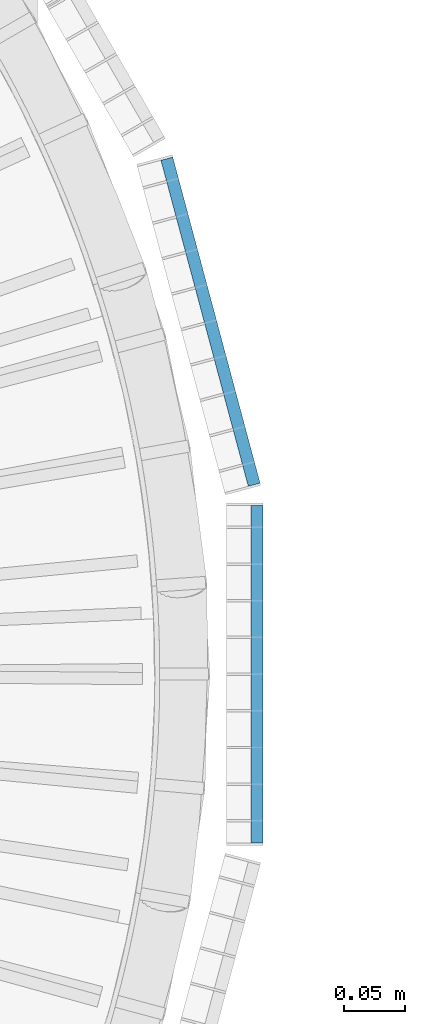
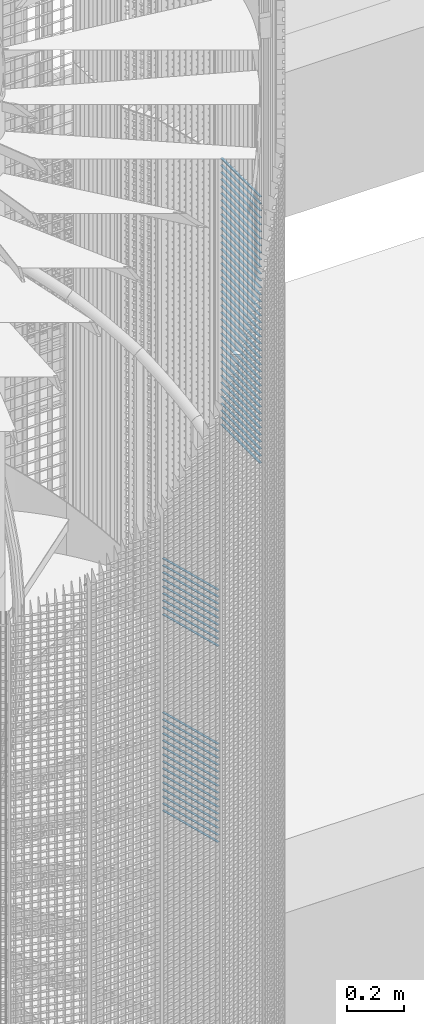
# One storey, part 283 of 1183: 63 beams, 2 elements without a shape of their own.
"""IFC2X3 building model written with IfcOpenShell, lengths in millimetres."""

from ifc_helpers import new_model, si_unit, frame, origin_with_axes, origin_2d_with_axis, place, context, subcontext, project, spatial, rectangle, extrude, material, type_object, element, aggregate, save


model = new_model("IFC2X3")

# Units and contexts
model_context = context("Model", 3, precision=1e-05, world=origin_with_axes())
body_context = subcontext(model_context, "Body", "Model", "MODEL_VIEW")
ifc_project = project(units=[si_unit("LENGTHUNIT", "METRE", prefix="MILLI"), si_unit("AREAUNIT", "SQUARE_METRE"), si_unit("VOLUMEUNIT", "CUBIC_METRE"), si_unit("MASSUNIT", "GRAM", prefix="KILO"), si_unit("TIMEUNIT", "SECOND"), si_unit("PLANEANGLEUNIT", "RADIAN"), si_unit("SOLIDANGLEUNIT", "STERADIAN"), si_unit("THERMODYNAMICTEMPERATUREUNIT", "DEGREE_CELSIUS"), si_unit("LUMINOUSINTENSITYUNIT", "LUMEN")], contexts=[model_context])

# Site, building, storey
site_placement = place(None, origin_with_axes())
site = spatial("IfcSite", under=ifc_project, at=site_placement, Name="Undefined", CompositionType="ELEMENT")
building_placement = place(site_placement, origin_with_axes())
building = spatial("IfcBuilding", under=site, at=building_placement, Name="Undefined", CompositionType="ELEMENT")
storey_placement = place(building_placement, origin_with_axes())
storey = spatial("IfcBuildingStorey", under=building, at=storey_placement, Name="Undefined", CompositionType="ELEMENT", Elevation=0.0)

# Assembly, beams
assembly_1_placement = place(storey_placement, origin_with_axes())
assembly_1 = element("IfcElementAssembly", 1, at=assembly_1_placement, inside=storey, Name="BORDURE", AssemblyPlace="NOTDEFINED", PredefinedType="NOTDEFINED")
ifc_material = material(Name="STEEL/S235JR")
beam_type = type_object("IfcBeamType", Name="PL2*10", PredefinedType="NOTDEFINED")
beam_1_placement = place(assembly_1_placement, frame((1111.25508286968, 154.895926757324, 12870.0), z_axis=(0.965925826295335, 0.258819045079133, 0.0), x_axis=(-0.258819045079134, 0.965925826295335, 0.0)))
beam_1 = element("IfcBeam", 2, at=beam_1_placement, type_object=beam_type, material=ifc_material, Name="ENTRETOISE", context=body_context, shape_type="SweptSolid", body=[
    extrude(rectangle(XDim=2.0, YDim=10.0, at=origin_2d_with_axis()), frame((275.999999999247, 9.09494701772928e-13, 1.53210777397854e-14), z_axis=(-1.0, 0.0, 0.0), x_axis=(0.0, -1.0, 0.0)), (0.0, 0.0, 1.0), 276.0),
])
beam_2_placement = place(assembly_1_placement, frame((1111.25508286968, 154.895926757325, 12450.0), z_axis=(0.965925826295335, 0.258819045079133, 0.0), x_axis=(-0.258819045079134, 0.965925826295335, 0.0)))
beam_2 = element("IfcBeam", 3, at=beam_2_placement, type_object=beam_type, material=ifc_material, Name="ENTRETOISE", context=body_context, shape_type="SweptSolid", body=[
    extrude(rectangle(XDim=2.0, YDim=10.0, at=origin_2d_with_axis()), frame((275.999999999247, 9.09494701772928e-13, 1.53210777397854e-14), z_axis=(-1.0, 0.0, 0.0), x_axis=(0.0, -1.0, 0.0)), (0.0, 0.0, 1.0), 276.0),
])
beam_3_placement = place(assembly_1_placement, frame((1111.25508286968, 154.895926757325, 12420.0), z_axis=(0.965925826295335, 0.258819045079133, 0.0), x_axis=(-0.258819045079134, 0.965925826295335, 0.0)))
beam_3 = element("IfcBeam", 4, at=beam_3_placement, type_object=beam_type, material=ifc_material, Name="ENTRETOISE", context=body_context, shape_type="SweptSolid", body=[
    extrude(rectangle(XDim=2.0, YDim=10.0, at=origin_2d_with_axis()), frame((275.999999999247, 9.09494701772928e-13, 1.53210777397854e-14), z_axis=(-1.0, 0.0, 0.0), x_axis=(0.0, -1.0, 0.0)), (0.0, 0.0, 1.0), 276.0),
])
beam_4_placement = place(assembly_1_placement, frame((1111.25508286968, 154.895926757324, 12900.0), z_axis=(0.965925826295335, 0.258819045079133, 0.0), x_axis=(-0.258819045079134, 0.965925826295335, 0.0)))
beam_4 = element("IfcBeam", 5, at=beam_4_placement, type_object=beam_type, material=ifc_material, Name="ENTRETOISE", context=body_context, shape_type="SweptSolid", body=[
    extrude(rectangle(XDim=2.0, YDim=10.0, at=origin_2d_with_axis()), frame((275.999999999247, 9.09494701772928e-13, 1.53210777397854e-14), z_axis=(-1.0, 0.0, 0.0), x_axis=(0.0, -1.0, 0.0)), (0.0, 0.0, 1.0), 276.0),
])
beam_5_placement = place(assembly_1_placement, frame((1111.25508286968, 154.895926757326, 12390.0), z_axis=(0.965925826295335, 0.258819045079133, 0.0), x_axis=(-0.258819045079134, 0.965925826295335, 0.0)))
beam_5 = element("IfcBeam", 6, at=beam_5_placement, type_object=beam_type, material=ifc_material, Name="ENTRETOISE", context=body_context, shape_type="SweptSolid", body=[
    extrude(rectangle(XDim=2.0, YDim=10.0, at=origin_2d_with_axis()), frame((275.999999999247, 9.09494701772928e-13, 1.53210777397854e-14), z_axis=(-1.0, 0.0, 0.0), x_axis=(0.0, -1.0, 0.0)), (0.0, 0.0, 1.0), 276.0),
])
beam_6_placement = place(assembly_1_placement, frame((1111.25508286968, 154.895926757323, 12930.0), z_axis=(0.965925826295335, 0.258819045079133, 0.0), x_axis=(-0.258819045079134, 0.965925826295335, 0.0)))
beam_6 = element("IfcBeam", 7, at=beam_6_placement, type_object=beam_type, material=ifc_material, Name="ENTRETOISE", context=body_context, shape_type="SweptSolid", body=[
    extrude(rectangle(XDim=2.0, YDim=10.0, at=origin_2d_with_axis()), frame((275.999999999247, 9.09494701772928e-13, 1.53210777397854e-14), z_axis=(-1.0, 0.0, 0.0), x_axis=(0.0, -1.0, 0.0)), (0.0, 0.0, 1.0), 276.0),
])
beam_7_placement = place(assembly_1_placement, frame((1111.25508286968, 154.895926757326, 12360.0), z_axis=(0.965925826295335, 0.258819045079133, 0.0), x_axis=(-0.258819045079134, 0.965925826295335, 0.0)))
beam_7 = element("IfcBeam", 8, at=beam_7_placement, type_object=beam_type, material=ifc_material, Name="ENTRETOISE", context=body_context, shape_type="SweptSolid", body=[
    extrude(rectangle(XDim=2.0, YDim=10.0, at=origin_2d_with_axis()), frame((275.999999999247, 9.09494701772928e-13, 1.53210777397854e-14), z_axis=(-1.0, 0.0, 0.0), x_axis=(0.0, -1.0, 0.0)), (0.0, 0.0, 1.0), 276.0),
])
beam_8_placement = place(assembly_1_placement, frame((1111.25508286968, 154.895926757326, 12330.0), z_axis=(0.965925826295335, 0.258819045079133, 0.0), x_axis=(-0.258819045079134, 0.965925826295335, 0.0)))
beam_8 = element("IfcBeam", 9, at=beam_8_placement, type_object=beam_type, material=ifc_material, Name="ENTRETOISE", context=body_context, shape_type="SweptSolid", body=[
    extrude(rectangle(XDim=2.0, YDim=10.0, at=origin_2d_with_axis()), frame((275.999999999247, 9.09494701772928e-13, 1.53210777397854e-14), z_axis=(-1.0, 0.0, 0.0), x_axis=(0.0, -1.0, 0.0)), (0.0, 0.0, 1.0), 276.0),
])
beam_9_placement = place(assembly_1_placement, frame((1111.25508286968, 154.895926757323, 12960.0), z_axis=(0.965925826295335, 0.258819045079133, 0.0), x_axis=(-0.258819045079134, 0.965925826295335, 0.0)))
beam_9 = element("IfcBeam", 10, at=beam_9_placement, type_object=beam_type, material=ifc_material, Name="ENTRETOISE", context=body_context, shape_type="SweptSolid", body=[
    extrude(rectangle(XDim=2.0, YDim=10.0, at=origin_2d_with_axis()), frame((275.999999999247, 9.09494701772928e-13, 1.53210777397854e-14), z_axis=(-1.0, 0.0, 0.0), x_axis=(0.0, -1.0, 0.0)), (0.0, 0.0, 1.0), 276.0),
])
beam_10_placement = place(assembly_1_placement, frame((1111.25508286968, 154.895926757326, 12300.0), z_axis=(0.965925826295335, 0.258819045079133, 0.0), x_axis=(-0.258819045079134, 0.965925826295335, 0.0)))
beam_10 = element("IfcBeam", 11, at=beam_10_placement, type_object=beam_type, material=ifc_material, Name="ENTRETOISE", context=body_context, shape_type="SweptSolid", body=[
    extrude(rectangle(XDim=2.0, YDim=10.0, at=origin_2d_with_axis()), frame((275.999999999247, 9.09494701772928e-13, 1.53210777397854e-14), z_axis=(-1.0, 0.0, 0.0), x_axis=(0.0, -1.0, 0.0)), (0.0, 0.0, 1.0), 276.0),
])
beam_11_placement = place(assembly_1_placement, frame((1111.25508286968, 154.895926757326, 12270.0), z_axis=(0.965925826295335, 0.258819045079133, 0.0), x_axis=(-0.258819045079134, 0.965925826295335, 0.0)))
beam_11 = element("IfcBeam", 12, at=beam_11_placement, type_object=beam_type, material=ifc_material, Name="ENTRETOISE", context=body_context, shape_type="SweptSolid", body=[
    extrude(rectangle(XDim=2.0, YDim=10.0, at=origin_2d_with_axis()), frame((275.999999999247, 9.09494701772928e-13, 1.53210777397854e-14), z_axis=(-1.0, 0.0, 0.0), x_axis=(0.0, -1.0, 0.0)), (0.0, 0.0, 1.0), 276.0),
])
beam_12_placement = place(assembly_1_placement, frame((1111.25508286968, 154.895926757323, 12990.0), z_axis=(0.965925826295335, 0.258819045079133, 0.0), x_axis=(-0.258819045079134, 0.965925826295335, 0.0)))
beam_12 = element("IfcBeam", 13, at=beam_12_placement, type_object=beam_type, material=ifc_material, Name="ENTRETOISE", context=body_context, shape_type="SweptSolid", body=[
    extrude(rectangle(XDim=2.0, YDim=10.0, at=origin_2d_with_axis()), frame((275.999999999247, 9.09494701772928e-13, 1.53210777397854e-14), z_axis=(-1.0, 0.0, 0.0), x_axis=(0.0, -1.0, 0.0)), (0.0, 0.0, 1.0), 276.0),
])
beam_13_placement = place(assembly_1_placement, frame((1111.25508286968, 154.895926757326, 12240.0), z_axis=(0.965925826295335, 0.258819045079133, 0.0), x_axis=(-0.258819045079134, 0.965925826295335, 0.0)))
beam_13 = element("IfcBeam", 14, at=beam_13_placement, type_object=beam_type, material=ifc_material, Name="ENTRETOISE", context=body_context, shape_type="SweptSolid", body=[
    extrude(rectangle(XDim=2.0, YDim=10.0, at=origin_2d_with_axis()), frame((275.999999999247, 9.09494701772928e-13, 1.53210777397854e-14), z_axis=(-1.0, 0.0, 0.0), x_axis=(0.0, -1.0, 0.0)), (0.0, 0.0, 1.0), 276.0),
])
beam_14_placement = place(assembly_1_placement, frame((1111.25508286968, 154.895926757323, 13020.0), z_axis=(0.965925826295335, 0.258819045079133, 0.0), x_axis=(-0.258819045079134, 0.965925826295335, 0.0)))
beam_14 = element("IfcBeam", 15, at=beam_14_placement, type_object=beam_type, material=ifc_material, Name="ENTRETOISE", context=body_context, shape_type="SweptSolid", body=[
    extrude(rectangle(XDim=2.0, YDim=10.0, at=origin_2d_with_axis()), frame((275.999999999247, 9.09494701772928e-13, 1.53210777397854e-14), z_axis=(-1.0, 0.0, 0.0), x_axis=(0.0, -1.0, 0.0)), (0.0, 0.0, 1.0), 276.0),
])
beam_15_placement = place(assembly_1_placement, frame((1111.25508286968, 154.895926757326, 12210.0), z_axis=(0.965925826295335, 0.258819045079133, 0.0), x_axis=(-0.258819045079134, 0.965925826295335, 0.0)))
beam_15 = element("IfcBeam", 16, at=beam_15_placement, type_object=beam_type, material=ifc_material, Name="ENTRETOISE", context=body_context, shape_type="SweptSolid", body=[
    extrude(rectangle(XDim=2.0, YDim=10.0, at=origin_2d_with_axis()), frame((275.999999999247, 9.09494701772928e-13, 1.53210777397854e-14), z_axis=(-1.0, 0.0, 0.0), x_axis=(0.0, -1.0, 0.0)), (0.0, 0.0, 1.0), 276.0),
])
beam_16_placement = place(assembly_1_placement, frame((1111.25508286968, 154.895926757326, 12180.0), z_axis=(0.965925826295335, 0.258819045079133, 0.0), x_axis=(-0.258819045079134, 0.965925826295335, 0.0)))
beam_16 = element("IfcBeam", 17, at=beam_16_placement, type_object=beam_type, material=ifc_material, Name="ENTRETOISE", context=body_context, shape_type="SweptSolid", body=[
    extrude(rectangle(XDim=2.0, YDim=10.0, at=origin_2d_with_axis()), frame((275.999999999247, 9.09494701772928e-13, 1.53210777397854e-14), z_axis=(-1.0, 0.0, 0.0), x_axis=(0.0, -1.0, 0.0)), (0.0, 0.0, 1.0), 276.0),
])
beam_17_placement = place(assembly_1_placement, frame((1111.25508286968, 154.895926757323, 13050.0), z_axis=(0.965925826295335, 0.258819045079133, 0.0), x_axis=(-0.258819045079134, 0.965925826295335, 0.0)))
beam_17 = element("IfcBeam", 18, at=beam_17_placement, type_object=beam_type, material=ifc_material, Name="ENTRETOISE", context=body_context, shape_type="SweptSolid", body=[
    extrude(rectangle(XDim=2.0, YDim=10.0, at=origin_2d_with_axis()), frame((275.999999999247, 9.09494701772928e-13, 1.53210777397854e-14), z_axis=(-1.0, 0.0, 0.0), x_axis=(0.0, -1.0, 0.0)), (0.0, 0.0, 1.0), 276.0),
])
beam_18_placement = place(assembly_1_placement, frame((1111.25508286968, 154.895926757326, 12150.0), z_axis=(0.965925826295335, 0.258819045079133, 0.0), x_axis=(-0.258819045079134, 0.965925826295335, 0.0)))
beam_18 = element("IfcBeam", 19, at=beam_18_placement, type_object=beam_type, material=ifc_material, Name="ENTRETOISE", context=body_context, shape_type="SweptSolid", body=[
    extrude(rectangle(XDim=2.0, YDim=10.0, at=origin_2d_with_axis()), frame((275.999999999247, 9.09494701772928e-13, 1.53210777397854e-14), z_axis=(-1.0, 0.0, 0.0), x_axis=(0.0, -1.0, 0.0)), (0.0, 0.0, 1.0), 276.0),
])
beam_19_placement = place(assembly_1_placement, frame((1111.25508286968, 154.895926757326, 12120.0), z_axis=(0.965925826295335, 0.258819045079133, 0.0), x_axis=(-0.258819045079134, 0.965925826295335, 0.0)))
beam_19 = element("IfcBeam", 20, at=beam_19_placement, type_object=beam_type, material=ifc_material, Name="ENTRETOISE", context=body_context, shape_type="SweptSolid", body=[
    extrude(rectangle(XDim=2.0, YDim=10.0, at=origin_2d_with_axis()), frame((275.999999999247, 9.09494701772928e-13, 1.53210777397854e-14), z_axis=(-1.0, 0.0, 0.0), x_axis=(0.0, -1.0, 0.0)), (0.0, 0.0, 1.0), 276.0),
])
beam_20_placement = place(assembly_1_placement, frame((1111.25508286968, 154.895926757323, 13080.0), z_axis=(0.965925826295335, 0.258819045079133, 0.0), x_axis=(-0.258819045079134, 0.965925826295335, 0.0)))
beam_20 = element("IfcBeam", 21, at=beam_20_placement, type_object=beam_type, material=ifc_material, Name="ENTRETOISE", context=body_context, shape_type="SweptSolid", body=[
    extrude(rectangle(XDim=2.0, YDim=10.0, at=origin_2d_with_axis()), frame((275.999999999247, 9.09494701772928e-13, 1.53210777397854e-14), z_axis=(-1.0, 0.0, 0.0), x_axis=(0.0, -1.0, 0.0)), (0.0, 0.0, 1.0), 276.0),
])
beam_21_placement = place(assembly_1_placement, frame((1111.25508286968, 154.895926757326, 12090.0), z_axis=(0.965925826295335, 0.258819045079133, 0.0), x_axis=(-0.258819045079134, 0.965925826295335, 0.0)))
beam_21 = element("IfcBeam", 22, at=beam_21_placement, type_object=beam_type, material=ifc_material, Name="ENTRETOISE", context=body_context, shape_type="SweptSolid", body=[
    extrude(rectangle(XDim=2.0, YDim=10.0, at=origin_2d_with_axis()), frame((275.999999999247, 9.09494701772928e-13, 1.53210777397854e-14), z_axis=(-1.0, 0.0, 0.0), x_axis=(0.0, -1.0, 0.0)), (0.0, 0.0, 1.0), 276.0),
])
beam_22_placement = place(assembly_1_placement, frame((1111.25508286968, 154.895926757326, 12060.0), z_axis=(0.965925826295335, 0.258819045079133, 0.0), x_axis=(-0.258819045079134, 0.965925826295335, 0.0)))
beam_22 = element("IfcBeam", 23, at=beam_22_placement, type_object=beam_type, material=ifc_material, Name="ENTRETOISE", context=body_context, shape_type="SweptSolid", body=[
    extrude(rectangle(XDim=2.0, YDim=10.0, at=origin_2d_with_axis()), frame((275.999999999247, 9.09494701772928e-13, 1.53210777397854e-14), z_axis=(-1.0, 0.0, 0.0), x_axis=(0.0, -1.0, 0.0)), (0.0, 0.0, 1.0), 276.0),
])
beam_23_placement = place(assembly_1_placement, frame((1111.25508286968, 154.895926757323, 13110.0), z_axis=(0.965925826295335, 0.258819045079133, 0.0), x_axis=(-0.258819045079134, 0.965925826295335, 0.0)))
beam_23 = element("IfcBeam", 24, at=beam_23_placement, type_object=beam_type, material=ifc_material, Name="ENTRETOISE", context=body_context, shape_type="SweptSolid", body=[
    extrude(rectangle(XDim=2.0, YDim=10.0, at=origin_2d_with_axis()), frame((275.999999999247, 9.09494701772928e-13, 1.53210777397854e-14), z_axis=(-1.0, 0.0, 0.0), x_axis=(0.0, -1.0, 0.0)), (0.0, 0.0, 1.0), 276.0),
])
beam_24_placement = place(assembly_1_placement, frame((1111.25508286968, 154.895926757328, 12030.0), z_axis=(0.965925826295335, 0.258819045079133, 0.0), x_axis=(-0.258819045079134, 0.965925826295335, 0.0)))
beam_24 = element("IfcBeam", 25, at=beam_24_placement, type_object=beam_type, material=ifc_material, Name="ENTRETOISE", context=body_context, shape_type="SweptSolid", body=[
    extrude(rectangle(XDim=2.0, YDim=10.0, at=origin_2d_with_axis()), frame((275.999999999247, 9.09494701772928e-13, 1.53210777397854e-14), z_axis=(-1.0, 0.0, 0.0), x_axis=(0.0, -1.0, 0.0)), (0.0, 0.0, 1.0), 276.0),
])
aggregate(assembly_1, [beam_1, beam_2, beam_3, beam_4, beam_5, beam_6, beam_7, beam_8, beam_9, beam_10, beam_11, beam_12, beam_13, beam_14, beam_15, beam_16, beam_17, beam_18, beam_19, beam_20, beam_21, beam_22, beam_23, beam_24])

assembly_2_placement = place(storey_placement, origin_with_axes())
assembly_2 = element("IfcElementAssembly", 26, at=assembly_2_placement, inside=storey, Name="BORDURE", AssemblyPlace="NOTDEFINED", PredefinedType="NOTDEFINED")
beam_25_placement = place(assembly_2_placement, frame((1113.47999999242, -137.996003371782, 14970.0), z_axis=(1.0, 0.0, 0.0), x_axis=(0.0, 1.0, 0.0)))
beam_25 = element("IfcBeam", 27, at=beam_25_placement, type_object=beam_type, material=ifc_material, Name="ENTRETOISE", context=body_context, shape_type="SweptSolid", body=[
    extrude(rectangle(XDim=2.0, YDim=10.0, at=origin_2d_with_axis()), frame((275.999999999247, 9.09494701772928e-13, 1.53210777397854e-14), z_axis=(-1.0, 0.0, 0.0), x_axis=(0.0, -1.0, 0.0)), (0.0, 0.0, 1.0), 276.0),
])
beam_26_placement = place(assembly_2_placement, frame((1113.47999999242, -137.996003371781, 14940.0), z_axis=(1.0, 0.0, 0.0), x_axis=(0.0, 1.0, 0.0)))
beam_26 = element("IfcBeam", 28, at=beam_26_placement, type_object=beam_type, material=ifc_material, Name="ENTRETOISE", context=body_context, shape_type="SweptSolid", body=[
    extrude(rectangle(XDim=2.0, YDim=10.0, at=origin_2d_with_axis()), frame((275.999999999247, 9.09494701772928e-13, 1.53210777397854e-14), z_axis=(-1.0, 0.0, 0.0), x_axis=(0.0, -1.0, 0.0)), (0.0, 0.0, 1.0), 276.0),
])
beam_27_placement = place(assembly_2_placement, frame((1113.47999999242, -137.996003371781, 14910.0), z_axis=(1.0, 0.0, 0.0), x_axis=(0.0, 1.0, 0.0)))
beam_27 = element("IfcBeam", 29, at=beam_27_placement, type_object=beam_type, material=ifc_material, Name="ENTRETOISE", context=body_context, shape_type="SweptSolid", body=[
    extrude(rectangle(XDim=2.0, YDim=10.0, at=origin_2d_with_axis()), frame((275.999999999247, 9.09494701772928e-13, 1.53210777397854e-14), z_axis=(-1.0, 0.0, 0.0), x_axis=(0.0, -1.0, 0.0)), (0.0, 0.0, 1.0), 276.0),
])
beam_28_placement = place(assembly_2_placement, frame((1113.47999999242, -137.996003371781, 14880.0), z_axis=(1.0, 0.0, 0.0), x_axis=(0.0, 1.0, 0.0)))
beam_28 = element("IfcBeam", 30, at=beam_28_placement, type_object=beam_type, material=ifc_material, Name="ENTRETOISE", context=body_context, shape_type="SweptSolid", body=[
    extrude(rectangle(XDim=2.0, YDim=10.0, at=origin_2d_with_axis()), frame((275.999999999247, 9.09494701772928e-13, 1.53210777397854e-14), z_axis=(-1.0, 0.0, 0.0), x_axis=(0.0, -1.0, 0.0)), (0.0, 0.0, 1.0), 276.0),
])
beam_29_placement = place(assembly_2_placement, frame((1113.47999999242, -137.996003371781, 14850.0), z_axis=(1.0, 0.0, 0.0), x_axis=(0.0, 1.0, 0.0)))
beam_29 = element("IfcBeam", 31, at=beam_29_placement, type_object=beam_type, material=ifc_material, Name="ENTRETOISE", context=body_context, shape_type="SweptSolid", body=[
    extrude(rectangle(XDim=2.0, YDim=10.0, at=origin_2d_with_axis()), frame((275.999999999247, 9.09494701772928e-13, 1.53210777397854e-14), z_axis=(-1.0, 0.0, 0.0), x_axis=(0.0, -1.0, 0.0)), (0.0, 0.0, 1.0), 276.0),
])
beam_30_placement = place(assembly_2_placement, frame((1113.47999999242, -137.996003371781, 14820.0), z_axis=(1.0, 0.0, 0.0), x_axis=(0.0, 1.0, 0.0)))
beam_30 = element("IfcBeam", 32, at=beam_30_placement, type_object=beam_type, material=ifc_material, Name="ENTRETOISE", context=body_context, shape_type="SweptSolid", body=[
    extrude(rectangle(XDim=2.0, YDim=10.0, at=origin_2d_with_axis()), frame((275.999999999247, 9.09494701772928e-13, 1.53210777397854e-14), z_axis=(-1.0, 0.0, 0.0), x_axis=(0.0, -1.0, 0.0)), (0.0, 0.0, 1.0), 276.0),
])
beam_31_placement = place(assembly_2_placement, frame((1113.47999999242, -137.996003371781, 14790.0), z_axis=(1.0, 0.0, 0.0), x_axis=(0.0, 1.0, 0.0)))
beam_31 = element("IfcBeam", 33, at=beam_31_placement, type_object=beam_type, material=ifc_material, Name="ENTRETOISE", context=body_context, shape_type="SweptSolid", body=[
    extrude(rectangle(XDim=2.0, YDim=10.0, at=origin_2d_with_axis()), frame((275.999999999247, 9.09494701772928e-13, 1.53210777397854e-14), z_axis=(-1.0, 0.0, 0.0), x_axis=(0.0, -1.0, 0.0)), (0.0, 0.0, 1.0), 276.0),
])
beam_32_placement = place(assembly_2_placement, frame((1113.47999999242, -137.996003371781, 14760.0), z_axis=(1.0, 0.0, 0.0), x_axis=(0.0, 1.0, 0.0)))
beam_32 = element("IfcBeam", 34, at=beam_32_placement, type_object=beam_type, material=ifc_material, Name="ENTRETOISE", context=body_context, shape_type="SweptSolid", body=[
    extrude(rectangle(XDim=2.0, YDim=10.0, at=origin_2d_with_axis()), frame((275.999999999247, 9.09494701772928e-13, 1.53210777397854e-14), z_axis=(-1.0, 0.0, 0.0), x_axis=(0.0, -1.0, 0.0)), (0.0, 0.0, 1.0), 276.0),
])
beam_33_placement = place(assembly_2_placement, frame((1113.47999999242, -137.996003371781, 14730.0), z_axis=(1.0, 0.0, 0.0), x_axis=(0.0, 1.0, 0.0)))
beam_33 = element("IfcBeam", 35, at=beam_33_placement, type_object=beam_type, material=ifc_material, Name="ENTRETOISE", context=body_context, shape_type="SweptSolid", body=[
    extrude(rectangle(XDim=2.0, YDim=10.0, at=origin_2d_with_axis()), frame((275.999999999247, 9.09494701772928e-13, 1.53210777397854e-14), z_axis=(-1.0, 0.0, 0.0), x_axis=(0.0, -1.0, 0.0)), (0.0, 0.0, 1.0), 276.0),
])
beam_34_placement = place(assembly_2_placement, frame((1113.47999999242, -137.996003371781, 14700.0), z_axis=(1.0, 0.0, 0.0), x_axis=(0.0, 1.0, 0.0)))
beam_34 = element("IfcBeam", 36, at=beam_34_placement, type_object=beam_type, material=ifc_material, Name="ENTRETOISE", context=body_context, shape_type="SweptSolid", body=[
    extrude(rectangle(XDim=2.0, YDim=10.0, at=origin_2d_with_axis()), frame((275.999999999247, 9.09494701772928e-13, 1.53210777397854e-14), z_axis=(-1.0, 0.0, 0.0), x_axis=(0.0, -1.0, 0.0)), (0.0, 0.0, 1.0), 276.0),
])
beam_35_placement = place(assembly_2_placement, frame((1113.47999999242, -137.996003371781, 14670.0), z_axis=(1.0, 0.0, 0.0), x_axis=(0.0, 1.0, 0.0)))
beam_35 = element("IfcBeam", 37, at=beam_35_placement, type_object=beam_type, material=ifc_material, Name="ENTRETOISE", context=body_context, shape_type="SweptSolid", body=[
    extrude(rectangle(XDim=2.0, YDim=10.0, at=origin_2d_with_axis()), frame((275.999999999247, 9.09494701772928e-13, 1.53210777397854e-14), z_axis=(-1.0, 0.0, 0.0), x_axis=(0.0, -1.0, 0.0)), (0.0, 0.0, 1.0), 276.0),
])
beam_36_placement = place(assembly_2_placement, frame((1113.47999999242, -137.99600337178, 14640.0), z_axis=(1.0, 0.0, 0.0), x_axis=(0.0, 1.0, 0.0)))
beam_36 = element("IfcBeam", 38, at=beam_36_placement, type_object=beam_type, material=ifc_material, Name="ENTRETOISE", context=body_context, shape_type="SweptSolid", body=[
    extrude(rectangle(XDim=2.0, YDim=10.0, at=origin_2d_with_axis()), frame((275.999999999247, 9.09494701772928e-13, 1.53210777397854e-14), z_axis=(-1.0, 0.0, 0.0), x_axis=(0.0, -1.0, 0.0)), (0.0, 0.0, 1.0), 276.0),
])
beam_37_placement = place(assembly_2_placement, frame((1113.47999999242, -137.99600337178, 14610.0), z_axis=(1.0, 0.0, 0.0), x_axis=(0.0, 1.0, 0.0)))
beam_37 = element("IfcBeam", 39, at=beam_37_placement, type_object=beam_type, material=ifc_material, Name="ENTRETOISE", context=body_context, shape_type="SweptSolid", body=[
    extrude(rectangle(XDim=2.0, YDim=10.0, at=origin_2d_with_axis()), frame((275.999999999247, 9.09494701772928e-13, 1.53210777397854e-14), z_axis=(-1.0, 0.0, 0.0), x_axis=(0.0, -1.0, 0.0)), (0.0, 0.0, 1.0), 276.0),
])
beam_38_placement = place(assembly_2_placement, frame((1113.47999999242, -137.99600337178, 14580.0), z_axis=(1.0, 0.0, 0.0), x_axis=(0.0, 1.0, 0.0)))
beam_38 = element("IfcBeam", 40, at=beam_38_placement, type_object=beam_type, material=ifc_material, Name="ENTRETOISE", context=body_context, shape_type="SweptSolid", body=[
    extrude(rectangle(XDim=2.0, YDim=10.0, at=origin_2d_with_axis()), frame((275.999999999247, 9.09494701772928e-13, 1.53210777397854e-14), z_axis=(-1.0, 0.0, 0.0), x_axis=(0.0, -1.0, 0.0)), (0.0, 0.0, 1.0), 276.0),
])
beam_39_placement = place(assembly_2_placement, frame((1113.47999999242, -137.99600337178, 14550.0), z_axis=(1.0, 0.0, 0.0), x_axis=(0.0, 1.0, 0.0)))
beam_39 = element("IfcBeam", 41, at=beam_39_placement, type_object=beam_type, material=ifc_material, Name="ENTRETOISE", context=body_context, shape_type="SweptSolid", body=[
    extrude(rectangle(XDim=2.0, YDim=10.0, at=origin_2d_with_axis()), frame((275.999999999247, 9.09494701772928e-13, 1.53210777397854e-14), z_axis=(-1.0, 0.0, 0.0), x_axis=(0.0, -1.0, 0.0)), (0.0, 0.0, 1.0), 276.0),
])
beam_40_placement = place(assembly_2_placement, frame((1113.47999999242, -137.99600337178, 14520.0), z_axis=(1.0, 0.0, 0.0), x_axis=(0.0, 1.0, 0.0)))
beam_40 = element("IfcBeam", 42, at=beam_40_placement, type_object=beam_type, material=ifc_material, Name="ENTRETOISE", context=body_context, shape_type="SweptSolid", body=[
    extrude(rectangle(XDim=2.0, YDim=10.0, at=origin_2d_with_axis()), frame((275.999999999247, 9.09494701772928e-13, 1.53210777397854e-14), z_axis=(-1.0, 0.0, 0.0), x_axis=(0.0, -1.0, 0.0)), (0.0, 0.0, 1.0), 276.0),
])
beam_41_placement = place(assembly_2_placement, frame((1113.47999999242, -137.99600337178, 14490.0), z_axis=(1.0, 0.0, 0.0), x_axis=(0.0, 1.0, 0.0)))
beam_41 = element("IfcBeam", 43, at=beam_41_placement, type_object=beam_type, material=ifc_material, Name="ENTRETOISE", context=body_context, shape_type="SweptSolid", body=[
    extrude(rectangle(XDim=2.0, YDim=10.0, at=origin_2d_with_axis()), frame((275.999999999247, 9.09494701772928e-13, 1.53210777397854e-14), z_axis=(-1.0, 0.0, 0.0), x_axis=(0.0, -1.0, 0.0)), (0.0, 0.0, 1.0), 276.0),
])
beam_42_placement = place(assembly_2_placement, frame((1113.47999999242, -137.99600337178, 14460.0), z_axis=(1.0, 0.0, 0.0), x_axis=(0.0, 1.0, 0.0)))
beam_42 = element("IfcBeam", 44, at=beam_42_placement, type_object=beam_type, material=ifc_material, Name="ENTRETOISE", context=body_context, shape_type="SweptSolid", body=[
    extrude(rectangle(XDim=2.0, YDim=10.0, at=origin_2d_with_axis()), frame((275.999999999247, 9.09494701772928e-13, 1.53210777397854e-14), z_axis=(-1.0, 0.0, 0.0), x_axis=(0.0, -1.0, 0.0)), (0.0, 0.0, 1.0), 276.0),
])
beam_43_placement = place(assembly_2_placement, frame((1113.47999999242, -137.99600337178, 14430.0), z_axis=(1.0, 0.0, 0.0), x_axis=(0.0, 1.0, 0.0)))
beam_43 = element("IfcBeam", 45, at=beam_43_placement, type_object=beam_type, material=ifc_material, Name="ENTRETOISE", context=body_context, shape_type="SweptSolid", body=[
    extrude(rectangle(XDim=2.0, YDim=10.0, at=origin_2d_with_axis()), frame((275.999999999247, 9.09494701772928e-13, 1.53210777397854e-14), z_axis=(-1.0, 0.0, 0.0), x_axis=(0.0, -1.0, 0.0)), (0.0, 0.0, 1.0), 276.0),
])
beam_44_placement = place(assembly_2_placement, frame((1113.47999999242, -137.996003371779, 14400.0), z_axis=(1.0, 0.0, 0.0), x_axis=(0.0, 1.0, 0.0)))
beam_44 = element("IfcBeam", 46, at=beam_44_placement, type_object=beam_type, material=ifc_material, Name="ENTRETOISE", context=body_context, shape_type="SweptSolid", body=[
    extrude(rectangle(XDim=2.0, YDim=10.0, at=origin_2d_with_axis()), frame((275.999999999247, 9.09494701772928e-13, 1.53210777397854e-14), z_axis=(-1.0, 0.0, 0.0), x_axis=(0.0, -1.0, 0.0)), (0.0, 0.0, 1.0), 276.0),
])
beam_45_placement = place(assembly_2_placement, frame((1113.47999999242, -137.996003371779, 14370.0), z_axis=(1.0, 0.0, 0.0), x_axis=(0.0, 1.0, 0.0)))
beam_45 = element("IfcBeam", 47, at=beam_45_placement, type_object=beam_type, material=ifc_material, Name="ENTRETOISE", context=body_context, shape_type="SweptSolid", body=[
    extrude(rectangle(XDim=2.0, YDim=10.0, at=origin_2d_with_axis()), frame((275.999999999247, 9.09494701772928e-13, 1.53210777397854e-14), z_axis=(-1.0, 0.0, 0.0), x_axis=(0.0, -1.0, 0.0)), (0.0, 0.0, 1.0), 276.0),
])
beam_46_placement = place(assembly_2_placement, frame((1113.47999999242, -137.996003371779, 14340.0), z_axis=(1.0, 0.0, 0.0), x_axis=(0.0, 1.0, 0.0)))
beam_46 = element("IfcBeam", 48, at=beam_46_placement, type_object=beam_type, material=ifc_material, Name="ENTRETOISE", context=body_context, shape_type="SweptSolid", body=[
    extrude(rectangle(XDim=2.0, YDim=10.0, at=origin_2d_with_axis()), frame((275.999999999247, 9.09494701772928e-13, 1.53210777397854e-14), z_axis=(-1.0, 0.0, 0.0), x_axis=(0.0, -1.0, 0.0)), (0.0, 0.0, 1.0), 276.0),
])
beam_47_placement = place(assembly_2_placement, frame((1113.47999999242, -137.996003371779, 14310.0), z_axis=(1.0, 0.0, 0.0), x_axis=(0.0, 1.0, 0.0)))
beam_47 = element("IfcBeam", 49, at=beam_47_placement, type_object=beam_type, material=ifc_material, Name="ENTRETOISE", context=body_context, shape_type="SweptSolid", body=[
    extrude(rectangle(XDim=2.0, YDim=10.0, at=origin_2d_with_axis()), frame((275.999999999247, 9.09494701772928e-13, 1.53210777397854e-14), z_axis=(-1.0, 0.0, 0.0), x_axis=(0.0, -1.0, 0.0)), (0.0, 0.0, 1.0), 276.0),
])
beam_48_placement = place(assembly_2_placement, frame((1113.47999999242, -137.996003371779, 14280.0), z_axis=(1.0, 0.0, 0.0), x_axis=(0.0, 1.0, 0.0)))
beam_48 = element("IfcBeam", 50, at=beam_48_placement, type_object=beam_type, material=ifc_material, Name="ENTRETOISE", context=body_context, shape_type="SweptSolid", body=[
    extrude(rectangle(XDim=2.0, YDim=10.0, at=origin_2d_with_axis()), frame((275.999999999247, 9.09494701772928e-13, 1.53210777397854e-14), z_axis=(-1.0, 0.0, 0.0), x_axis=(0.0, -1.0, 0.0)), (0.0, 0.0, 1.0), 276.0),
])
beam_49_placement = place(assembly_2_placement, frame((1113.47999999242, -137.996003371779, 14250.0), z_axis=(1.0, 0.0, 0.0), x_axis=(0.0, 1.0, 0.0)))
beam_49 = element("IfcBeam", 51, at=beam_49_placement, type_object=beam_type, material=ifc_material, Name="ENTRETOISE", context=body_context, shape_type="SweptSolid", body=[
    extrude(rectangle(XDim=2.0, YDim=10.0, at=origin_2d_with_axis()), frame((275.999999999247, 9.09494701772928e-13, 1.53210777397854e-14), z_axis=(-1.0, 0.0, 0.0), x_axis=(0.0, -1.0, 0.0)), (0.0, 0.0, 1.0), 276.0),
])
beam_50_placement = place(assembly_2_placement, frame((1113.47999999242, -137.996003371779, 14220.0), z_axis=(1.0, 0.0, 0.0), x_axis=(0.0, 1.0, 0.0)))
beam_50 = element("IfcBeam", 52, at=beam_50_placement, type_object=beam_type, material=ifc_material, Name="ENTRETOISE", context=body_context, shape_type="SweptSolid", body=[
    extrude(rectangle(XDim=2.0, YDim=10.0, at=origin_2d_with_axis()), frame((275.999999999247, 9.09494701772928e-13, 1.53210777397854e-14), z_axis=(-1.0, 0.0, 0.0), x_axis=(0.0, -1.0, 0.0)), (0.0, 0.0, 1.0), 276.0),
])
beam_51_placement = place(assembly_2_placement, frame((1113.47999999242, -137.996003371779, 14190.0), z_axis=(1.0, 0.0, 0.0), x_axis=(0.0, 1.0, 0.0)))
beam_51 = element("IfcBeam", 53, at=beam_51_placement, type_object=beam_type, material=ifc_material, Name="ENTRETOISE", context=body_context, shape_type="SweptSolid", body=[
    extrude(rectangle(XDim=2.0, YDim=10.0, at=origin_2d_with_axis()), frame((275.999999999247, 9.09494701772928e-13, 1.53210777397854e-14), z_axis=(-1.0, 0.0, 0.0), x_axis=(0.0, -1.0, 0.0)), (0.0, 0.0, 1.0), 276.0),
])
beam_52_placement = place(assembly_2_placement, frame((1113.47999999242, -137.996003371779, 14160.0), z_axis=(1.0, 0.0, 0.0), x_axis=(0.0, 1.0, 0.0)))
beam_52 = element("IfcBeam", 54, at=beam_52_placement, type_object=beam_type, material=ifc_material, Name="ENTRETOISE", context=body_context, shape_type="SweptSolid", body=[
    extrude(rectangle(XDim=2.0, YDim=10.0, at=origin_2d_with_axis()), frame((275.999999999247, 9.09494701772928e-13, 1.53210777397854e-14), z_axis=(-1.0, 0.0, 0.0), x_axis=(0.0, -1.0, 0.0)), (0.0, 0.0, 1.0), 276.0),
])
beam_53_placement = place(assembly_2_placement, frame((1113.47999999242, -137.996003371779, 14130.0), z_axis=(1.0, 0.0, 0.0), x_axis=(0.0, 1.0, 0.0)))
beam_53 = element("IfcBeam", 55, at=beam_53_placement, type_object=beam_type, material=ifc_material, Name="ENTRETOISE", context=body_context, shape_type="SweptSolid", body=[
    extrude(rectangle(XDim=2.0, YDim=10.0, at=origin_2d_with_axis()), frame((275.999999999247, 9.09494701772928e-13, 1.53210777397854e-14), z_axis=(-1.0, 0.0, 0.0), x_axis=(0.0, -1.0, 0.0)), (0.0, 0.0, 1.0), 276.0),
])
beam_54_placement = place(assembly_2_placement, frame((1113.47999999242, -137.996003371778, 14100.0), z_axis=(1.0, 0.0, 0.0), x_axis=(0.0, 1.0, 0.0)))
beam_54 = element("IfcBeam", 56, at=beam_54_placement, type_object=beam_type, material=ifc_material, Name="ENTRETOISE", context=body_context, shape_type="SweptSolid", body=[
    extrude(rectangle(XDim=2.0, YDim=10.0, at=origin_2d_with_axis()), frame((275.999999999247, 9.09494701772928e-13, 1.53210777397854e-14), z_axis=(-1.0, 0.0, 0.0), x_axis=(0.0, -1.0, 0.0)), (0.0, 0.0, 1.0), 276.0),
])
beam_55_placement = place(assembly_2_placement, frame((1113.47999999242, -137.996003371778, 14070.0), z_axis=(1.0, 0.0, 0.0), x_axis=(0.0, 1.0, 0.0)))
beam_55 = element("IfcBeam", 57, at=beam_55_placement, type_object=beam_type, material=ifc_material, Name="ENTRETOISE", context=body_context, shape_type="SweptSolid", body=[
    extrude(rectangle(XDim=2.0, YDim=10.0, at=origin_2d_with_axis()), frame((275.999999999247, 9.09494701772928e-13, 1.53210777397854e-14), z_axis=(-1.0, 0.0, 0.0), x_axis=(0.0, -1.0, 0.0)), (0.0, 0.0, 1.0), 276.0),
])
beam_56_placement = place(assembly_2_placement, frame((1113.47999999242, -137.996003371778, 14040.0), z_axis=(1.0, 0.0, 0.0), x_axis=(0.0, 1.0, 0.0)))
beam_56 = element("IfcBeam", 58, at=beam_56_placement, type_object=beam_type, material=ifc_material, Name="ENTRETOISE", context=body_context, shape_type="SweptSolid", body=[
    extrude(rectangle(XDim=2.0, YDim=10.0, at=origin_2d_with_axis()), frame((275.999999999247, 9.09494701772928e-13, 1.53210777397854e-14), z_axis=(-1.0, 0.0, 0.0), x_axis=(0.0, -1.0, 0.0)), (0.0, 0.0, 1.0), 276.0),
])
beam_57_placement = place(assembly_2_placement, frame((1113.47999999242, -137.996003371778, 14010.0), z_axis=(1.0, 0.0, 0.0), x_axis=(0.0, 1.0, 0.0)))
beam_57 = element("IfcBeam", 59, at=beam_57_placement, type_object=beam_type, material=ifc_material, Name="ENTRETOISE", context=body_context, shape_type="SweptSolid", body=[
    extrude(rectangle(XDim=2.0, YDim=10.0, at=origin_2d_with_axis()), frame((275.999999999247, 9.09494701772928e-13, 1.53210777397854e-14), z_axis=(-1.0, 0.0, 0.0), x_axis=(0.0, -1.0, 0.0)), (0.0, 0.0, 1.0), 276.0),
])
beam_58_placement = place(assembly_2_placement, frame((1113.47999999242, -137.996003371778, 13980.0), z_axis=(1.0, 0.0, 0.0), x_axis=(0.0, 1.0, 0.0)))
beam_58 = element("IfcBeam", 60, at=beam_58_placement, type_object=beam_type, material=ifc_material, Name="ENTRETOISE", context=body_context, shape_type="SweptSolid", body=[
    extrude(rectangle(XDim=2.0, YDim=10.0, at=origin_2d_with_axis()), frame((275.999999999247, 9.09494701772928e-13, 1.53210777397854e-14), z_axis=(-1.0, 0.0, 0.0), x_axis=(0.0, -1.0, 0.0)), (0.0, 0.0, 1.0), 276.0),
])
beam_59_placement = place(assembly_2_placement, frame((1113.47999999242, -137.996003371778, 13950.0), z_axis=(1.0, 0.0, 0.0), x_axis=(0.0, 1.0, 0.0)))
beam_59 = element("IfcBeam", 61, at=beam_59_placement, type_object=beam_type, material=ifc_material, Name="ENTRETOISE", context=body_context, shape_type="SweptSolid", body=[
    extrude(rectangle(XDim=2.0, YDim=10.0, at=origin_2d_with_axis()), frame((275.999999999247, 9.09494701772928e-13, 1.53210777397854e-14), z_axis=(-1.0, 0.0, 0.0), x_axis=(0.0, -1.0, 0.0)), (0.0, 0.0, 1.0), 276.0),
])
beam_60_placement = place(assembly_2_placement, frame((1113.47999999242, -137.996003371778, 13920.0), z_axis=(1.0, 0.0, 0.0), x_axis=(0.0, 1.0, 0.0)))
beam_60 = element("IfcBeam", 62, at=beam_60_placement, type_object=beam_type, material=ifc_material, Name="ENTRETOISE", context=body_context, shape_type="SweptSolid", body=[
    extrude(rectangle(XDim=2.0, YDim=10.0, at=origin_2d_with_axis()), frame((275.999999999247, 9.09494701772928e-13, 1.53210777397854e-14), z_axis=(-1.0, 0.0, 0.0), x_axis=(0.0, -1.0, 0.0)), (0.0, 0.0, 1.0), 276.0),
])
beam_61_placement = place(assembly_2_placement, frame((1113.47999999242, -137.996003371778, 13890.0), z_axis=(1.0, 0.0, 0.0), x_axis=(0.0, 1.0, 0.0)))
beam_61 = element("IfcBeam", 63, at=beam_61_placement, type_object=beam_type, material=ifc_material, Name="ENTRETOISE", context=body_context, shape_type="SweptSolid", body=[
    extrude(rectangle(XDim=2.0, YDim=10.0, at=origin_2d_with_axis()), frame((275.999999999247, 9.09494701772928e-13, 1.53210777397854e-14), z_axis=(-1.0, 0.0, 0.0), x_axis=(0.0, -1.0, 0.0)), (0.0, 0.0, 1.0), 276.0),
])
beam_62_placement = place(assembly_2_placement, frame((1113.47999999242, -137.996003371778, 13860.0), z_axis=(1.0, 0.0, 0.0), x_axis=(0.0, 1.0, 0.0)))
beam_62 = element("IfcBeam", 64, at=beam_62_placement, type_object=beam_type, material=ifc_material, Name="ENTRETOISE", context=body_context, shape_type="SweptSolid", body=[
    extrude(rectangle(XDim=2.0, YDim=10.0, at=origin_2d_with_axis()), frame((275.999999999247, 9.09494701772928e-13, 1.53210777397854e-14), z_axis=(-1.0, 0.0, 0.0), x_axis=(0.0, -1.0, 0.0)), (0.0, 0.0, 1.0), 276.0),
])
beam_63_placement = place(assembly_2_placement, frame((1113.47999999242, -137.996003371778, 13830.0), z_axis=(1.0, 0.0, 0.0), x_axis=(0.0, 1.0, 0.0)))
beam_63 = element("IfcBeam", 65, at=beam_63_placement, type_object=beam_type, material=ifc_material, Name="ENTRETOISE", context=body_context, shape_type="SweptSolid", body=[
    extrude(rectangle(XDim=2.0, YDim=10.0, at=origin_2d_with_axis()), frame((275.999999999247, 9.09494701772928e-13, 1.53210777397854e-14), z_axis=(-1.0, 0.0, 0.0), x_axis=(0.0, -1.0, 0.0)), (0.0, 0.0, 1.0), 276.0),
])
aggregate(assembly_2, [beam_25, beam_26, beam_27, beam_28, beam_29, beam_30, beam_31, beam_32, beam_33, beam_34, beam_35, beam_36, beam_37, beam_38, beam_39, beam_40, beam_41, beam_42, beam_43, beam_44, beam_45, beam_46, beam_47, beam_48, beam_49, beam_50, beam_51, beam_52, beam_53, beam_54, beam_55, beam_56, beam_57, beam_58, beam_59, beam_60, beam_61, beam_62, beam_63])

save(model, "model.ifc")
